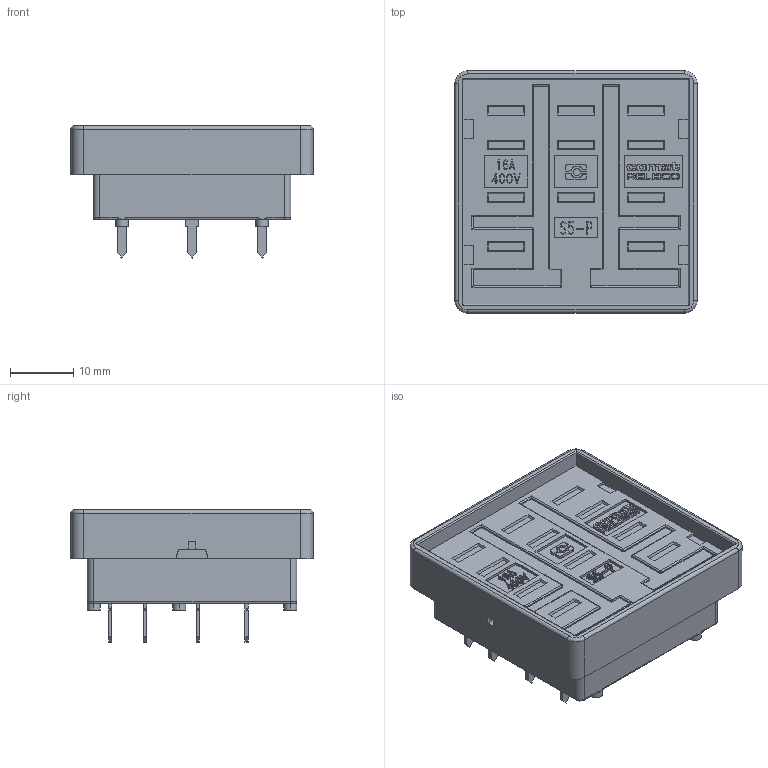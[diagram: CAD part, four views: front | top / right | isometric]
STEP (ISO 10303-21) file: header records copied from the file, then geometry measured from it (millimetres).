
FILE_DESCRIPTION (( 'STEP AP214' ), '1' );
FILE_NAME ('S5-P.STEP', '2024-04-15T09:11:36', ( '' ), ( '' ), 'SwSTEP 2.0', 'SolidWorks 2022', '' );
FILE_SCHEMA (( 'AUTOMOTIVE_DESIGN' ));
Length unit declared in the file: millimetre
Products named in the file (1): S5-P
Bounding box: 38.2 x 38.2 x 20.84 mm (x, y, z)
Volume: 14985.2 mm3; surface area: 5893.3 mm2
Topology: 1 solids, 1 shells, 912 faces, 2452 edges, 1593 vertices
Faces by surface type: plane 756, bspline 90, cylinder 66
Entity records: 28642 total; most frequent: CARTESIAN_POINT 6451, ORIENTED_EDGE 4874, DIRECTION 4001, EDGE_CURVE 2437, VECTOR 2163, LINE 2163, VERTEX_POINT 1593, EDGE_LOOP 978
